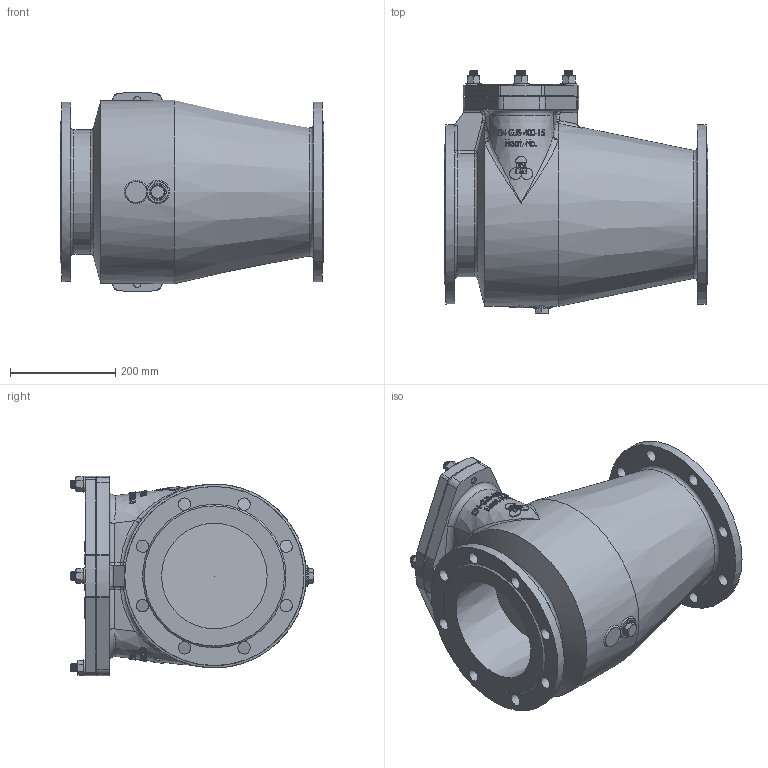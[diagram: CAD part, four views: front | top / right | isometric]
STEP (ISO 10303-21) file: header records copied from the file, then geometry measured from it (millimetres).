
FILE_DESCRIPTION(/* description */ ('PSA ELA DN200 PN10'),/* implementation_level */ '2;1');
FILE_NAME(/* name */ 'PSA ELA DN200 PN10',/* time_stamp */ '2024-10-16T12:04:10+02:00',/* author */ ('Christin-Michelle Fremgen'),/* organization */ ('PSA Wasserarmaturen GmbH'),/* preprocessor_version */ 'ST-DEVELOPER v18.104',/* originating_system */ 'Solid Edge',/* authorisation */ 'Unknown');
FILE_SCHEMA (('AUTOMOTIVE_DESIGN {1 0 10303 214 3 1 1}'));
Length unit declared in the file: millimetre
Products named in the file (1): PSA ELA DN200 PN10
Bounding box: 500 x 461.19 x 379.33 mm (x, y, z)
Volume: 13741983 mm3; surface area: 1752370.7 mm2
Topology: 2 solids, 67 shells, 1880 faces, 4720 edges, 3005 vertices
Faces by surface type: plane 701, bspline 505, cone 347, cylinder 273, torus 40, sphere 14
Full cylindrical faces by diameter (mm): 12 x2, 13.797 x6, 14 x27, 16 x53, 17 x3, 19 x4, 23.5 x16, 24 x3, 24.117 x5, 27 x1, 28.19 x1, 30 x4, 32 x1, 33 x1, 200 x1, 265 x1, 325 x1, 340 x2
Entity records: 116845 total; most frequent: CARTESIAN_POINT 65656, ORIENTED_EDGE 8268, DIRECTION 6045, EDGE_CURVE 4134, VERTEX_POINT 2845, FACE_BOUND 2467, EDGE_LOOP 2463, AXIS2_PLACEMENT_3D 2197
